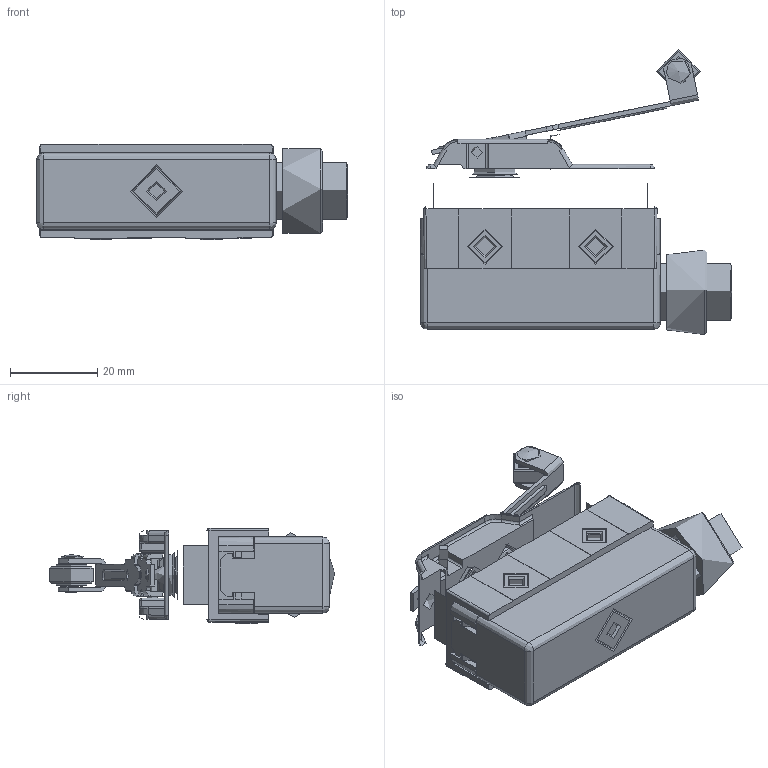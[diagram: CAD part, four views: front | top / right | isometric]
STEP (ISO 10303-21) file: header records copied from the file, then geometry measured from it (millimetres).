
FILE_DESCRIPTION((''),'2; 1');
FILE_NAME('','2026-03-27T16:33:04',(''),(''),'CST STEP Exporter V1.0','Unknown','');
FILE_SCHEMA(('CONFIG_CONTROL_DESIGN'));
Length unit declared in the file: metre
Assembly tree (19 placements, depth 2):
  (unnamed)
    (unnamed)
    (unnamed)
    (unnamed)
    (unnamed)
    (unnamed)
    (unnamed)
    (unnamed)
    (unnamed)
    (unnamed)
    (unnamed)
    (unnamed)
    (unnamed)
    (unnamed)
    (unnamed)
    (unnamed)
    (unnamed)
    (unnamed)
    (unnamed)
    (unnamed)
Bounding box: 71.33 x 65.35 x 21.9 mm (x, y, z)
Topology: 0 solids, 44 shells, 378 faces, 1035 edges, 678 vertices
Faces by surface type: plane 179, cylinder 141, torus 29, sphere 17, cone 11, bspline 1
Full cylindrical faces by diameter (mm): 1 x12, 1.9 x1, 2 x4, 2.5 x1, 2.6 x3, 3 x1, 3.2 x1, 3.5 x1, 3.9 x1, 4 x1, 4.2 x2, 5 x3, 5.2 x2, 5.5 x1, 5.7 x1, 6 x1, 7 x2, 7.5 x2, 8 x5, 8.2 x1, 9.3 x1, 10 x1, 13 x2, 16 x1, 19.4 x1
Entity records: 16098 total; most frequent: CARTESIAN_POINT 3153, DIRECTION 2032, ORIENTED_EDGE 1752, EDGE_CURVE 987, AXIS2_PLACEMENT_3D 745, VERTEX_POINT 687, VECTOR 542, LINE 542
